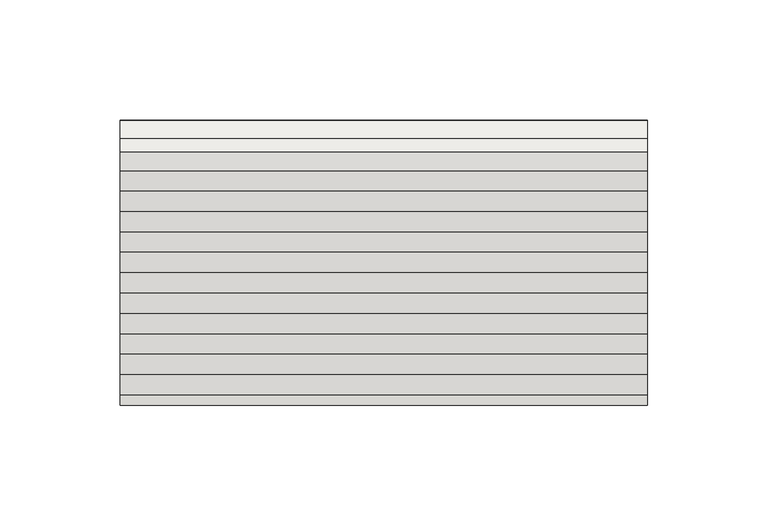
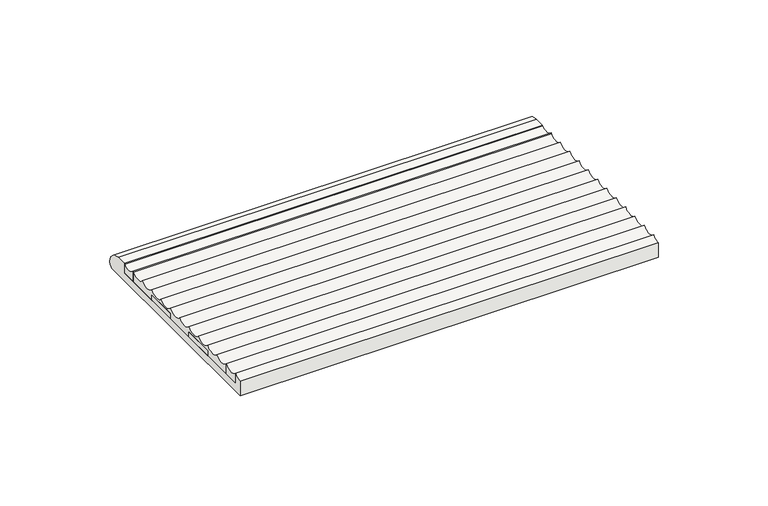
"""IFC4 building model written with IfcOpenShell, lengths in millimetres: slab geometry, ROSA GRES_003 : Pieza 003_Aqua_Marino_Anti-Slip."""

from ifc_helpers import new_model, si_unit, point, frame, frame_2d, origin, place, context, project, spatial, polyline, circle_curve, trimmed, segment, composite_curve, outline, extrude, source, transform, mapped, element, save


def slab_f5e70500(model_context):
    return source(origin(), model_context, "Body", "SweptSolid", [
        extrude(outline(composite_curve([segment(trimmed(circle_curve(frame_2d((-7.6419163, 1.7573601)), 7.7398374), [point((-7.6419163, 9.4971975))], [point((0.0, 2.9846331))], False, "CARTESIAN"), True, "CONTINUOUS"), segment(trimmed(circle_curve(frame_2d((-1.9104791, 2.6778148)), 1.9349594), [point((0.0, 2.9846331))], [point((-0.5422562, 1.309592))], False, "CARTESIAN"), True, "CONTINUOUS"), segment(polyline([(-0.5422562, 1.309592), (-1.8518481, 0.0), (-118.9168888, 0.0), (-118.9168888, 8.0603545)]), True, "CONTINUOUS"), segment(trimmed(circle_curve(frame_2d((-118.9168888, 13.6516438)), 5.5912893), [point((-118.9168888, 8.0603545))], [point((-114.6668888, 10.0184612))], True, "CARTESIAN"), True, "CONTINUOUS"), segment(polyline([(-114.6668888, 10.0184612), (-114.6668888, 4.0921512), (-13.1748183, 4.0921512), (-13.1748183, 9.4971975), (-7.6419163, 9.4971975)]), True, "CONTINUOUS")], self_intersect=False)), frame((0.0, 0.0, 0.0), z_axis=(1.0, 0.0, 0.0), x_axis=(0.0, 1.0, 0.0)), (0.0, 0.0, 1.0), 219.9734114),
        extrude(outline(composite_curve([segment(polyline([(-106.1668888, 10.0184612), (-106.1668888, 4.0921512), (-114.6668888, 4.0921512), (-114.6668888, 10.0184612)]), True, "CONTINUOUS"), segment(trimmed(circle_curve(frame_2d((-110.4168888, 13.6516438)), 5.5912893), [point((-114.6668888, 10.0184612))], [point((-106.1668888, 10.0184612))], True, "CARTESIAN"), True, "CONTINUOUS")], self_intersect=False)), frame((0.0, 0.0, 0.0), z_axis=(1.0, 0.0, 0.0), x_axis=(0.0, 1.0, 0.0)), (0.0, 0.0, 1.0), 219.9734114),
        extrude(outline(polyline([(219.9734114, -89.1668888), (0.0, -89.1668888), (0.0, -72.1668888), (219.9734114, -72.1668888), (219.9734114, -89.1668888)])), frame((0.0, 0.0, 4.0921512), z_axis=(0.0, 0.0, 1.0), x_axis=(1.0, 0.0, 0.0)), (0.0, 0.0, 1.0), 2.92631),
        extrude(outline(polyline([(219.9734114, -55.1668888), (0.0, -55.1668888), (0.0, -38.1668888), (219.9734114, -38.1668888), (219.9734114, -55.1668888)])), frame((0.0, 0.0, 4.0921512), z_axis=(0.0, 0.0, 1.0), x_axis=(1.0, 0.0, 0.0)), (0.0, 0.0, 1.0), 2.92631),
        extrude(outline(composite_curve([segment(polyline([(-13.1748183, 9.4971975), (-13.1748183, 4.0921512), (-21.1668888, 4.0921512), (-21.1668888, 10.0184612)]), True, "CONTINUOUS"), segment(trimmed(circle_curve(frame_2d((-16.9168888, 13.6516438)), 5.5912893), [point((-21.1668888, 10.0184612))], [point((-13.1748183, 9.4971975))], True, "CARTESIAN"), True, "CONTINUOUS")], self_intersect=False)), frame((0.0, 0.0, 0.0), z_axis=(1.0, 0.0, 0.0), x_axis=(0.0, 1.0, 0.0)), (0.0, 0.0, 1.0), 219.9734114),
        extrude(outline(composite_curve([segment(polyline([(-21.1668888, 10.0221512), (-21.1668888, 4.0921512), (-38.1668888, 4.0921512), (-38.1668888, 7.0184612), (-55.1668888, 7.0184612), (-55.1668888, 4.0921512), (-72.1668888, 4.0921512), (-72.1668888, 7.0184612), (-89.1668888, 7.0184612), (-89.1668888, 4.0921512), (-106.1668888, 4.0921512), (-106.1668888, 10.0221512)]), True, "CONTINUOUS"), segment(trimmed(circle_curve(frame_2d((-101.9168888, 13.6553338)), 5.5912893), [point((-106.1668888, 10.0221512))], [point((-97.6668888, 10.0221512))], True, "CARTESIAN"), True, "CONTINUOUS"), segment(trimmed(circle_curve(frame_2d((-93.4168888, 13.6553338)), 5.5912893), [point((-97.6668888, 10.0221512))], [point((-89.1668888, 10.0221512))], True, "CARTESIAN"), True, "CONTINUOUS"), segment(trimmed(circle_curve(frame_2d((-84.9168888, 13.6553338)), 5.5912893), [point((-89.1668888, 10.0221512))], [point((-80.6668888, 10.0221512))], True, "CARTESIAN"), True, "CONTINUOUS"), segment(trimmed(circle_curve(frame_2d((-76.4168888, 13.6553338)), 5.5912893), [point((-80.6668888, 10.0221512))], [point((-72.1668888, 10.0221512))], True, "CARTESIAN"), True, "CONTINUOUS"), segment(trimmed(circle_curve(frame_2d((-67.9168888, 13.6553338)), 5.5912893), [point((-72.1668888, 10.0221512))], [point((-63.6668888, 10.0221512))], True, "CARTESIAN"), True, "CONTINUOUS"), segment(trimmed(circle_curve(frame_2d((-59.4168888, 13.6553338)), 5.5912893), [point((-63.6668888, 10.0221512))], [point((-55.1668888, 10.0221512))], True, "CARTESIAN"), True, "CONTINUOUS"), segment(trimmed(circle_curve(frame_2d((-50.9168888, 13.6553338)), 5.5912893), [point((-55.1668888, 10.0221512))], [point((-46.6668888, 10.0221512))], True, "CARTESIAN"), True, "CONTINUOUS"), segment(trimmed(circle_curve(frame_2d((-42.4168888, 13.6553338)), 5.5912893), [point((-46.6668888, 10.0221512))], [point((-38.1668888, 10.0221512))], True, "CARTESIAN"), True, "CONTINUOUS"), segment(trimmed(circle_curve(frame_2d((-33.9168888, 13.6553338)), 5.5912893), [point((-38.1668888, 10.0221512))], [point((-29.6668888, 10.0221512))], True, "CARTESIAN"), True, "CONTINUOUS"), segment(trimmed(circle_curve(frame_2d((-25.4168888, 13.6553338)), 5.5912893), [point((-29.6668888, 10.0221512))], [point((-21.1668888, 10.0221512))], True, "CARTESIAN"), True, "CONTINUOUS")], self_intersect=False)), frame((0.0, 0.0, 0.0), z_axis=(1.0, 0.0, 0.0), x_axis=(0.0, 1.0, 0.0)), (0.0, 0.0, 1.0), 219.9734114),
    ])


if __name__ == "__main__":
    model = new_model("IFC4")
    model_context = context("Model", 3, world=origin())
    ifc_project = project(units=[si_unit("LENGTHUNIT", "METRE", prefix="MILLI")], contexts=[model_context])
    site = spatial("IfcSite", under=ifc_project)
    building = spatial("IfcBuilding", under=site)
    placement = place(None, origin())
    slab_shape = slab_f5e70500(model_context)
    element("IfcSlab", 1, ObjectType="ROSA GRES_003 : Pieza 003_Aqua_Marino_Anti-Slip", at=placement, inside=building, context=model_context, shape_type="MappedRepresentation", body=[
        mapped(slab_shape, transform((0.0, 0.0, 0.0), x_axis=(1.0, 0.0, 0.0), y_axis=(0.0, 1.0, 0.0), z_axis=(0.0, 0.0, 1.0))),
    ])
    save(model, "model.ifc")
